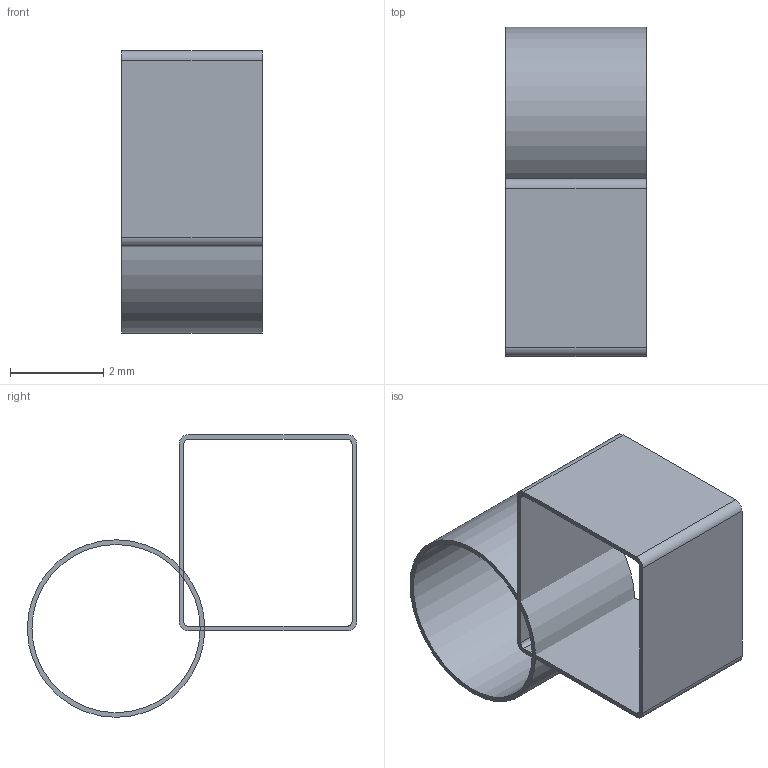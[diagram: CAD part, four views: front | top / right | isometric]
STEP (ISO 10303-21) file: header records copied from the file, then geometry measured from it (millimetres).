
FILE_DESCRIPTION(('Open CASCADE Model'),'2;1');
FILE_NAME('Open CASCADE Shape Model','2026-09-15T14:08:00',('Author'),( 'Open CASCADE'),'Open CASCADE STEP processor 7.7','Open CASCADE 7.7' ,'Unknown');
FILE_SCHEMA(('AUTOMOTIVE_DESIGN { 1 0 10303 214 1 1 1 1 }'));
Length unit declared in the file: millimetre
Products named in the file (5): J9_STOCK_SPLICE_POLYESTER_LOOP_0p10; ASSEMBLY; SOLID
Assembly tree (4 placements, depth 3):
  J9_STOCK_SPLICE_POLYESTER_LOOP_0p10
    ASSEMBLY
      SOLID
    ASSEMBLY
      SOLID
Bounding box: 3 x 7.05 x 6.05 mm (x, y, z)
Volume: 8.1 mm3; surface area: 167.2 mm2
Topology: 2 solids, 2 shells, 22 faces, 54 edges, 36 vertices
Faces by surface type: plane 12, cylinder 10
Full cylindrical faces by diameter (mm): 3.6 x1, 3.8 x1
Entity records: 1452 total; most frequent: CARTESIAN_POINT 293, DIRECTION 208, ORIENTED_EDGE 108, PCURVE 108, DEFINITIONAL_REPRESENTATION 108, LINE 102, VECTOR 102, EDGE_CURVE 54
